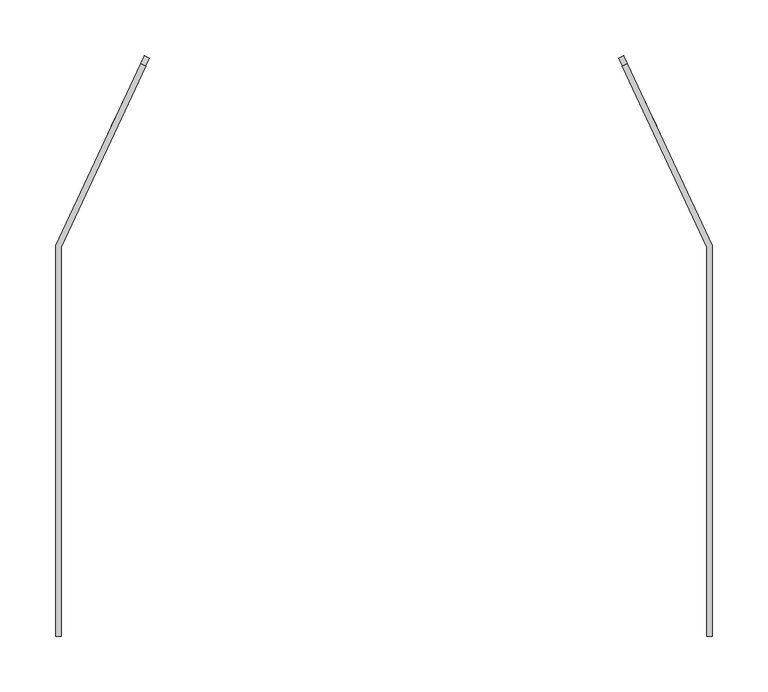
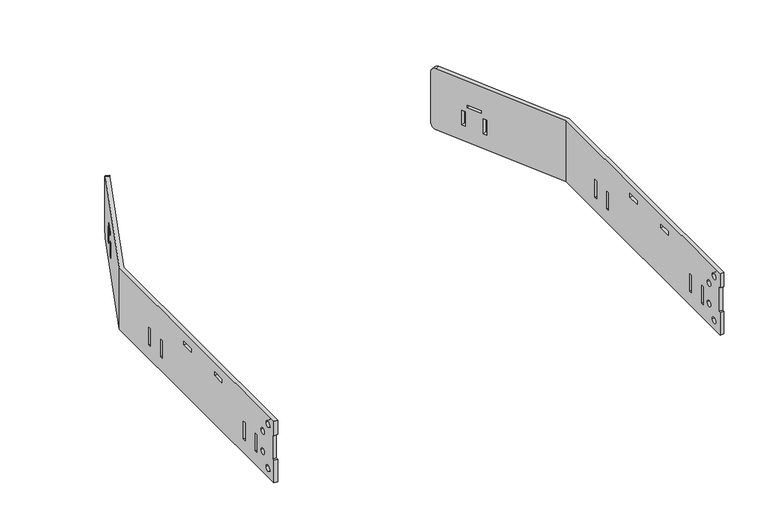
"""IFC4 building model written with IfcOpenShell, lengths in millimetres: proxy geometry, d&b CL-Series CCLi Flying Frame TOP : d&b CL-Series CCLi Flying Frame TOP."""

from ifc_helpers import new_model, si_unit, frame, origin, place, context, project, spatial, polyline, circle_curve, source, transform, mapped, element, save
from ifc_brep_helpers import plane_surface, cylinder_surface, revolved_surface, advanced_brep


def communication_devices_d598217c(model_context):
    return source(origin(), model_context, "Body", "AdvancedBrep", [
        advanced_brep(
        [(-295.0, 350.3584733, 99.0), (-295.0, -0.75, 99.0), (-290.0, -0.75, 99.0), (-290.0, 349.25, 99.0), (-214.1086442, 511.9995377, 99.0), (-218.6401831, 514.112629, 99.0), (-290.0, 349.25, 14.0), (-290.0, -0.75, 14.0), (-295.0, -0.75, 14.0), (-295.0, 350.3584733, 14.0), (-218.6401831, 514.112629, 14.0), (-214.1086442, 511.9995377, 14.0), (-210.7276981, 519.25, 22.0), (-210.7276981, 519.25, 91.0), (-243.4731496, 449.0271528, 55.25), (-241.398349, 453.4765769, 55.25), (-241.398349, 453.4765769, 34.75), (-243.4731496, 449.0271528, 34.75), (-230.8828428, 476.0271528, 55.25), (-228.8080422, 480.4765769, 55.25), (-228.8080422, 480.4765769, 34.75), (-230.8828428, 476.0271528, 34.75), (-240.3356379, 455.7555683, 65.25), (-232.0721958, 473.4765769, 65.25), (-232.0721958, 473.4765769, 61.75), (-240.3356379, 455.7555683, 61.75), (-215.259237, 521.3630913, 22.0), (-215.259237, 521.3630913, 91.0), (-245.9298879, 455.5896683, 55.25), (-248.0046885, 451.1402441, 55.25), (-248.0046885, 451.1402441, 34.75), (-245.9298879, 455.5896683, 34.75), (-233.3395812, 482.5896683, 55.25), (-235.4143817, 478.1402441, 55.25), (-235.4143817, 478.1402441, 34.75), (-233.3395812, 482.5896683, 34.75), (-236.6037348, 475.5896683, 65.25), (-244.8671768, 457.8686596, 65.25), (-244.8671768, 457.8686596, 61.75), (-236.6037348, 475.5896683, 61.75), (-295.0, -0.75, 45.0), (-295.0, 2.25, 45.0), (-295.0, 2.25, 79.25), (-295.0, -0.75, 79.25), (-295.0, 65.0, 57.25), (-295.0, 65.0, 32.75), (-295.0, 68.5, 32.75), (-295.0, 68.5, 57.25), (-295.0, 117.25, 86.0), (-295.0, 117.25, 81.0), (-295.0, 134.25, 81.0), (-295.0, 134.25, 86.0), (-295.0, 187.25, 86.0), (-295.0, 187.25, 81.0), (-295.0, 204.25, 81.0), (-295.0, 204.25, 86.0), (-295.0, 253.0, 57.25), (-295.0, 253.0, 32.75), (-295.0, 256.5, 32.75), (-295.0, 256.5, 57.25), (-295.0, 280.0, 57.25), (-295.0, 280.0, 32.75), (-295.0, 283.5, 32.75), (-295.0, 283.5, 57.25), (-295.0, 38.0, 57.25), (-295.0, 38.0, 32.75), (-295.0, 41.5, 32.75), (-295.0, 41.5, 57.25), (-295.0, 20.7215287, 70.6169591), (-295.0, 28.7215287, 70.6169591), (-295.0, 9.25, 87.0), (-295.0, 17.25, 87.0), (-295.0, 20.7215287, 42.3830409), (-295.0, 28.7215287, 42.3830409), (-295.0, 9.25, 26.0), (-295.0, 17.25, 26.0), (-290.0, -0.75, 79.25), (-290.0, -0.75, 45.0), (-290.0, 2.25, 79.25), (-290.0, 2.25, 45.0), (-290.0, 65.0, 32.75), (-290.0, 65.0, 57.25), (-290.0, 68.5, 57.25), (-290.0, 68.5, 32.75), (-290.0, 117.25, 81.0), (-290.0, 117.25, 86.0), (-290.0, 134.25, 86.0), (-290.0, 134.25, 81.0), (-290.0, 187.25, 81.0), (-290.0, 187.25, 86.0), (-290.0, 204.25, 86.0), (-290.0, 204.25, 81.0), (-290.0, 253.0, 32.75), (-290.0, 253.0, 57.25), (-290.0, 256.5, 57.25), (-290.0, 256.5, 32.75), (-290.0, 280.0, 32.75), (-290.0, 280.0, 57.25), (-290.0, 283.5, 57.25), (-290.0, 283.5, 32.75), (-290.0, 38.0, 32.75), (-290.0, 38.0, 57.25), (-290.0, 41.5, 57.25), (-290.0, 41.5, 32.75), (-290.0, 28.7215287, 70.6169591), (-290.0, 20.7215287, 70.6169591), (-290.0, 17.25, 87.0), (-290.0, 9.25, 87.0), (-290.0, 28.7215287, 42.3830409), (-290.0, 20.7215287, 42.3830409), (-290.0, 17.25, 26.0), (-290.0, 9.25, 26.0)],
        [
            (0, 1),
            (1, 2),
            (2, 3),
            (3, 4),
            (4, 5),
            (5, 0),
            (6, 7),
            (7, 8),
            (8, 9),
            (9, 10),
            (10, 11),
            (11, 6),
            (3, 6),
            (11, 12, circle_curve(frame((-214.1086442, 511.9995377, 22.0), z_axis=(0.9063077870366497, -0.4226182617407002, 0.0), x_axis=(-0.4226182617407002, -0.9063077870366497, 0.0)), 8.0)),
            (12, 13),
            (13, 4, circle_curve(frame((-214.1086442, 511.9995377, 91.0), z_axis=(0.9063077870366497, -0.4226182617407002, 0.0), x_axis=(-0.4226182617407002, -0.9063077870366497, 0.0)), 8.0)),
            (14, 15),
            (15, 16),
            (16, 17),
            (17, 14),
            (18, 19),
            (19, 20),
            (20, 21),
            (21, 18),
            (22, 23),
            (23, 24),
            (24, 25),
            (25, 22),
            (12, 26),
            (26, 27),
            (27, 13),
            (9, 0),
            (5, 27, circle_curve(frame((-218.6401831, 514.112629, 91.0), z_axis=(-0.9063077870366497, 0.4226182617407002, 0.0), x_axis=(-0.4226182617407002, -0.9063077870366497, 0.0)), 8.0)),
            (26, 10, circle_curve(frame((-218.6401831, 514.112629, 22.0), z_axis=(-0.9063077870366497, 0.4226182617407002, 0.0), x_axis=(-0.4226182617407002, -0.9063077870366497, 0.0)), 8.0)),
            (28, 29),
            (29, 30),
            (30, 31),
            (31, 28),
            (32, 33),
            (33, 34),
            (34, 35),
            (35, 32),
            (36, 37),
            (37, 38),
            (38, 39),
            (39, 36),
            (8, 40),
            (40, 41),
            (41, 42),
            (42, 43),
            (43, 1),
            (44, 45),
            (45, 46),
            (46, 47),
            (47, 44),
            (48, 49),
            (49, 50),
            (50, 51),
            (51, 48),
            (52, 53),
            (53, 54),
            (54, 55),
            (55, 52),
            (56, 57),
            (57, 58),
            (58, 59),
            (59, 56),
            (60, 61),
            (61, 62),
            (62, 63),
            (63, 60),
            (64, 65),
            (65, 66),
            (66, 67),
            (67, 64),
            (68, 69, circle_curve(frame((-295.0, 24.7215287, 70.6169591), z_axis=(1.0, 0.0, 0.0), x_axis=(0.0, 1.0, 0.0)), 4.0)),
            (69, 68, circle_curve(frame((-295.0, 24.7215287, 70.6169591), z_axis=(1.0, 0.0, 0.0), x_axis=(0.0, 1.0, 0.0)), 4.0)),
            (70, 71, circle_curve(frame((-295.0, 13.25, 87.0), z_axis=(1.0, 0.0, 0.0), x_axis=(0.0, 1.0, 0.0)), 4.0)),
            (71, 70, circle_curve(frame((-295.0, 13.25, 87.0), z_axis=(1.0, 0.0, 0.0), x_axis=(0.0, 1.0, 0.0)), 4.0)),
            (72, 73, circle_curve(frame((-295.0, 24.7215287, 42.3830409), z_axis=(1.0, 0.0, 0.0), x_axis=(0.0, 1.0, 0.0)), 4.0)),
            (73, 72, circle_curve(frame((-295.0, 24.7215287, 42.3830409), z_axis=(1.0, 0.0, 0.0), x_axis=(0.0, 1.0, 0.0)), 4.0)),
            (74, 75, circle_curve(frame((-295.0, 13.25, 26.0), z_axis=(1.0, 0.0, 0.0), x_axis=(0.0, 1.0, 0.0)), 4.0)),
            (75, 74, circle_curve(frame((-295.0, 13.25, 26.0), z_axis=(1.0, 0.0, 0.0), x_axis=(0.0, 1.0, 0.0)), 4.0)),
            (43, 76),
            (76, 2),
            (7, 77),
            (77, 40),
            (76, 78),
            (78, 79),
            (79, 77),
            (80, 81),
            (81, 82),
            (82, 83),
            (83, 80),
            (84, 85),
            (85, 86),
            (86, 87),
            (87, 84),
            (88, 89),
            (89, 90),
            (90, 91),
            (91, 88),
            (92, 93),
            (93, 94),
            (94, 95),
            (95, 92),
            (96, 97),
            (97, 98),
            (98, 99),
            (99, 96),
            (100, 101),
            (101, 102),
            (102, 103),
            (103, 100),
            (104, 105, circle_curve(frame((-290.0, 24.7215287, 70.6169591), z_axis=(-1.0, 0.0, 0.0), x_axis=(0.0, 1.0, 0.0)), 4.0)),
            (105, 104, circle_curve(frame((-290.0, 24.7215287, 70.6169591), z_axis=(-1.0, 0.0, 0.0), x_axis=(0.0, 1.0, 0.0)), 4.0)),
            (106, 107, circle_curve(frame((-290.0, 13.25, 87.0), z_axis=(-1.0, 0.0, 0.0), x_axis=(0.0, 1.0, 0.0)), 4.0)),
            (107, 106, circle_curve(frame((-290.0, 13.25, 87.0), z_axis=(-1.0, 0.0, 0.0), x_axis=(0.0, 1.0, 0.0)), 4.0)),
            (108, 109, circle_curve(frame((-290.0, 24.7215287, 42.3830409), z_axis=(-1.0, 0.0, 0.0), x_axis=(0.0, 1.0, 0.0)), 4.0)),
            (109, 108, circle_curve(frame((-290.0, 24.7215287, 42.3830409), z_axis=(-1.0, 0.0, 0.0), x_axis=(0.0, 1.0, 0.0)), 4.0)),
            (110, 111, circle_curve(frame((-290.0, 13.25, 26.0), z_axis=(-1.0, 0.0, 0.0), x_axis=(0.0, 1.0, 0.0)), 4.0)),
            (111, 110, circle_curve(frame((-290.0, 13.25, 26.0), z_axis=(-1.0, 0.0, 0.0), x_axis=(0.0, 1.0, 0.0)), 4.0)),
            (79, 41),
            (78, 42),
            (44, 81),
            (80, 45),
            (83, 46),
            (82, 47),
            (48, 85),
            (84, 49),
            (87, 50),
            (86, 51),
            (52, 89),
            (88, 53),
            (91, 54),
            (90, 55),
            (56, 93),
            (92, 57),
            (95, 58),
            (94, 59),
            (60, 97),
            (96, 61),
            (99, 62),
            (98, 63),
            (64, 101),
            (100, 65),
            (103, 66),
            (102, 67),
            (14, 29),
            (28, 15),
            (31, 16),
            (30, 17),
            (18, 33),
            (32, 19),
            (35, 20),
            (34, 21),
            (22, 37),
            (36, 23),
            (39, 24),
            (38, 25),
            (68, 105),
            (104, 69),
            (70, 107),
            (106, 71),
            (72, 109),
            (108, 73),
            (74, 111),
            (110, 75),
        ],
        [
            plane_surface(frame((-210.7276981, 519.25, 99.0), z_axis=(0.0, 0.0, 1.0), x_axis=(0.4226182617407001, 0.9063077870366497, 0.0))),
            plane_surface(frame((-210.7276981, 519.25, 14.0), z_axis=(0.0, 0.0, -1.0), x_axis=(-0.4226182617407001, -0.9063077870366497, 0.0))),
            plane_surface(frame((-290.0, 349.25, 99.0), z_axis=(0.9063077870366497, -0.4226182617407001, 0.0), x_axis=(0.0, 0.0, -1.0))),
            plane_surface(frame((-210.7276981, 519.25, 99.0), z_axis=(0.4226182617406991, 0.9063077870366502, 0.0), x_axis=(0.0, 0.0, -1.0))),
            plane_surface(frame((-215.259237, 521.3630913, 99.0), z_axis=(-0.9063077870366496, 0.42261826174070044, 0.0), x_axis=(0.0, 0.0, -1.0))),
            plane_surface(frame((-295.0, 350.3584733, 99.0), z_axis=(-1.0, 0.0, 0.0), x_axis=(0.0, 0.0, -1.0))),
            plane_surface(frame((-295.0, -0.75, 99.0), z_axis=(0.0, -1.0, 0.0), x_axis=(0.0, 0.0, -1.0))),
            plane_surface(frame((-290.0, -0.75, 99.0), z_axis=(1.0, 0.0, 0.0), x_axis=(0.0, 0.0, -1.0))),
            plane_surface(frame((500.0, -0.75, 45.0), z_axis=(0.0, 0.0, 1.0), x_axis=(-1.0, 0.0, 0.0))),
            plane_surface(frame((500.0, 2.25, 45.0), z_axis=(0.0, -1.0, 0.0), x_axis=(-1.0, 0.0, 0.0))),
            plane_surface(frame((500.0, 2.25, 79.25), z_axis=(0.0, 0.0, -1.0), x_axis=(-1.0, 0.0, 0.0))),
            plane_surface(frame((500.0, 65.0, 57.25), z_axis=(0.0, 1.0, 0.0), x_axis=(-1.0, 0.0, 0.0))),
            plane_surface(frame((500.0, 65.0, 32.75), z_axis=(0.0, 0.0, 1.0), x_axis=(-1.0, 0.0, 0.0))),
            plane_surface(frame((500.0, 68.5, 32.75), z_axis=(0.0, -1.0, 0.0), x_axis=(-1.0, 0.0, 0.0))),
            plane_surface(frame((500.0, 68.5, 57.25), z_axis=(0.0, 0.0, -1.0), x_axis=(-1.0, 0.0, 0.0))),
            plane_surface(frame((500.0, 117.25, 86.0), z_axis=(0.0, 1.0, 0.0), x_axis=(-1.0, 0.0, 0.0))),
            plane_surface(frame((500.0, 117.25, 81.0), z_axis=(0.0, 0.0, 1.0), x_axis=(-1.0, 0.0, 0.0))),
            plane_surface(frame((500.0, 134.25, 81.0), z_axis=(0.0, -1.0, 0.0), x_axis=(-1.0, 0.0, 0.0))),
            plane_surface(frame((500.0, 134.25, 86.0), z_axis=(0.0, 0.0, -1.0), x_axis=(-1.0, 0.0, 0.0))),
            plane_surface(frame((500.0, 187.25, 86.0), z_axis=(0.0, 1.0, 0.0), x_axis=(-1.0, 0.0, 0.0))),
            plane_surface(frame((500.0, 187.25, 81.0), z_axis=(0.0, 0.0, 1.0), x_axis=(-1.0, 0.0, 0.0))),
            plane_surface(frame((500.0, 204.25, 81.0), z_axis=(0.0, -1.0, 0.0), x_axis=(-1.0, 0.0, 0.0))),
            plane_surface(frame((500.0, 204.25, 86.0), z_axis=(0.0, 0.0, -1.0), x_axis=(-1.0, 0.0, 0.0))),
            plane_surface(frame((500.0, 253.0, 57.25), z_axis=(0.0, 1.0, 0.0), x_axis=(-1.0, 0.0, 0.0))),
            plane_surface(frame((500.0, 253.0, 32.75), z_axis=(0.0, 0.0, 1.0), x_axis=(-1.0, 0.0, 0.0))),
            plane_surface(frame((500.0, 256.5, 32.75), z_axis=(0.0, -1.0, 0.0), x_axis=(-1.0, 0.0, 0.0))),
            plane_surface(frame((500.0, 256.5, 57.25), z_axis=(0.0, 0.0, -1.0), x_axis=(-1.0, 0.0, 0.0))),
            plane_surface(frame((500.0, 280.0, 57.25), z_axis=(0.0, 1.0, 0.0), x_axis=(-1.0, 0.0, 0.0))),
            plane_surface(frame((500.0, 280.0, 32.75), z_axis=(0.0, 0.0, 1.0), x_axis=(-1.0, 0.0, 0.0))),
            plane_surface(frame((500.0, 283.5, 32.75), z_axis=(0.0, -1.0, 0.0), x_axis=(-1.0, 0.0, 0.0))),
            plane_surface(frame((500.0, 283.5, 57.25), z_axis=(0.0, 0.0, -1.0), x_axis=(-1.0, 0.0, 0.0))),
            plane_surface(frame((500.0, 38.0, 57.25), z_axis=(0.0, 1.0, 0.0), x_axis=(-1.0, 0.0, 0.0))),
            plane_surface(frame((500.0, 38.0, 32.75), z_axis=(0.0, 0.0, 1.0), x_axis=(-1.0, 0.0, 0.0))),
            plane_surface(frame((500.0, 41.5, 32.75), z_axis=(0.0, -1.0, 0.0), x_axis=(-1.0, 0.0, 0.0))),
            plane_surface(frame((500.0, 41.5, 57.25), z_axis=(0.0, 0.0, -1.0), x_axis=(-1.0, 0.0, 0.0))),
            plane_surface(frame((-257.0677664, 455.3664267, 55.25), z_axis=(0.0, 0.0, -1.0000000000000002), x_axis=(0.9063077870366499, -0.4226182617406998, 0.0))),
            plane_surface(frame((-254.9929658, 459.8158509, 55.25), z_axis=(-0.4226182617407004, -0.9063077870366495, 0.0), x_axis=(0.9063077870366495, -0.4226182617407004, 0.0))),
            plane_surface(frame((-254.9929658, 459.8158509, 34.75), z_axis=(0.0, 0.0, 1.0), x_axis=(0.9063077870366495, -0.4226182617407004, 0.0))),
            plane_surface(frame((-257.0677664, 455.3664267, 34.75), z_axis=(0.4226182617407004, 0.9063077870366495, 0.0), x_axis=(0.9063077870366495, -0.4226182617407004, 0.0))),
            plane_surface(frame((-244.4774596, 482.3664267, 55.25), z_axis=(0.0, 0.0, -1.0), x_axis=(0.9063077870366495, -0.4226182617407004, 0.0))),
            plane_surface(frame((-242.402659, 486.8158509, 55.25), z_axis=(-0.4226182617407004, -0.9063077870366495, 0.0), x_axis=(0.9063077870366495, -0.4226182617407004, 0.0))),
            plane_surface(frame((-242.402659, 486.8158509, 34.75), z_axis=(0.0, 0.0, 1.0), x_axis=(0.9063077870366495, -0.4226182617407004, 0.0))),
            plane_surface(frame((-244.4774596, 482.3664267, 34.75), z_axis=(0.4226182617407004, 0.9063077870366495, 0.0), x_axis=(0.9063077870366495, -0.4226182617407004, 0.0))),
            plane_surface(frame((-253.9302547, 462.0948422, 65.25), z_axis=(0.0, 0.0, -1.0), x_axis=(0.9063077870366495, -0.4226182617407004, 0.0))),
            plane_surface(frame((-245.6668126, 479.8158509, 65.25), z_axis=(-0.4226182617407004, -0.9063077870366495, 0.0), x_axis=(0.9063077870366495, -0.4226182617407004, 0.0))),
            plane_surface(frame((-245.6668126, 479.8158509, 61.75), z_axis=(0.0, 0.0, 1.0), x_axis=(0.9063077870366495, -0.4226182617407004, 0.0))),
            plane_surface(frame((-253.9302547, 462.0948422, 61.75), z_axis=(0.4226182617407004, 0.9063077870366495, 0.0), x_axis=(0.9063077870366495, -0.4226182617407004, 0.0))),
            cylinder_surface(frame((-218.6401831, 514.112629, 91.0), z_axis=(0.9063077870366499, -0.42261826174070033, 0.0), x_axis=(-0.4226182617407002, -0.9063077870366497, 0.0)), 8.0),
            cylinder_surface(frame((-218.6401831, 514.112629, 22.0), z_axis=(0.9063077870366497, -0.4226182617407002, 0.0), x_axis=(-0.4226182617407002, -0.9063077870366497, 0.0)), 8.0),
            revolved_surface(polyline([(-290.0, 28.7215287, 70.6169591), (-295.0, 28.7215287, 70.6169591)]), (0.0, 24.7215287, 70.6169591), (1.0, 0.0, 0.0)),
            revolved_surface(polyline([(-290.0, 17.25, 87.0), (-295.0, 17.25, 87.0)]), (0.0, 13.25, 87.0), (1.0, 0.0, 0.0)),
            revolved_surface(polyline([(-290.0, 28.7215287, 42.3830409), (-295.0, 28.7215287, 42.3830409)]), (0.0, 24.7215287, 42.3830409), (1.0, 0.0, 0.0)),
            revolved_surface(polyline([(-290.0, 17.25, 26.0), (-295.0, 17.25, 26.0)]), (0.0, 13.25, 26.0), (1.0, 0.0, 0.0)),
        ],
        [
            (0, [[1, 2, 3, 4, 5, 6]]),
            (1, [[7, 8, 9, 10, 11, 12]]),
            (2, [[13, -12, 14, 15, 16, -4], [17, 18, 19, 20], [21, 22, 23, 24], [25, 26, 27, 28]]),
            (3, [[-15, 29, 30, 31]]),
            (4, [[32, -6, 33, -30, 34, -10], [35, 36, 37, 38], [39, 40, 41, 42], [43, 44, 45, 46]]),
            (5, [[-1, -32, -9, 47, 48, 49, 50, 51], [52, 53, 54, 55], [56, 57, 58, 59], [60, 61, 62, 63], [64, 65, 66, 67], [68, 69, 70, 71], [72, 73, 74, 75], [76, 77], [78, 79], [80, 81], [82, 83]]),
            (6, [[-2, -51, 84, 85]]),
            (6, [[-8, 86, 87, -47]]),
            (7, [[-3, -85, 88, 89, 90, -86, -7, -13], [91, 92, 93, 94], [95, 96, 97, 98], [99, 100, 101, 102], [103, 104, 105, 106], [107, 108, 109, 110], [111, 112, 113, 114], [115, 116], [117, 118], [119, 120], [121, 122]]),
            (8, [[123, -48, -87, -90]]),
            (9, [[-123, -89, 124, -49]]),
            (10, [[-124, -88, -84, -50]]),
            (11, [[125, -91, 126, -52]]),
            (12, [[-126, -94, 127, -53]]),
            (13, [[-127, -93, 128, -54]]),
            (14, [[-125, -55, -128, -92]]),
            (15, [[129, -95, 130, -56]]),
            (16, [[-130, -98, 131, -57]]),
            (17, [[-131, -97, 132, -58]]),
            (18, [[-129, -59, -132, -96]]),
            (19, [[133, -99, 134, -60]]),
            (20, [[-134, -102, 135, -61]]),
            (21, [[-135, -101, 136, -62]]),
            (22, [[-133, -63, -136, -100]]),
            (23, [[137, -103, 138, -64]]),
            (24, [[-138, -106, 139, -65]]),
            (25, [[-139, -105, 140, -66]]),
            (26, [[-137, -67, -140, -104]]),
            (27, [[141, -107, 142, -68]]),
            (28, [[-142, -110, 143, -69]]),
            (29, [[-143, -109, 144, -70]]),
            (30, [[-141, -71, -144, -108]]),
            (31, [[145, -111, 146, -72]]),
            (32, [[-146, -114, 147, -73]]),
            (33, [[-147, -113, 148, -74]]),
            (34, [[-145, -75, -148, -112]]),
            (35, [[149, -35, 150, -17]]),
            (36, [[-150, -38, 151, -18]]),
            (37, [[-151, -37, 152, -19]]),
            (38, [[-149, -20, -152, -36]]),
            (39, [[153, -39, 154, -21]]),
            (40, [[-154, -42, 155, -22]]),
            (41, [[-155, -41, 156, -23]]),
            (42, [[-153, -24, -156, -40]]),
            (43, [[157, -43, 158, -25]]),
            (44, [[-158, -46, 159, -26]]),
            (45, [[-159, -45, 160, -27]]),
            (46, [[-157, -28, -160, -44]]),
            (47, [[-5, -16, -31, -33]]),
            (48, [[-11, -34, -29, -14]]),
            (49, [[161, -115, 162, -76]]),
            (49, [[-161, -77, -162, -116]]),
            (50, [[163, -117, 164, -78]]),
            (50, [[-163, -79, -164, -118]]),
            (51, [[165, -119, 166, -80]]),
            (51, [[-165, -81, -166, -120]]),
            (52, [[167, -121, 168, -82]]),
            (52, [[-167, -83, -168, -122]]),
        ],
    ),
        advanced_brep(
        [(290.0, 349.25, 99.0), (290.0, -0.75, 99.0), (295.0, -0.75, 99.0), (295.0, 350.3584733, 99.0), (218.6401831, 514.112629, 99.0), (214.1086442, 511.9995377, 99.0), (295.0, 350.3584733, 14.0), (295.0, -0.75, 14.0), (290.0, -0.75, 14.0), (290.0, 349.25, 14.0), (214.1086442, 511.9995377, 14.0), (218.6401831, 514.112629, 14.0), (290.0, -0.75, 45.0), (290.0, 2.25, 45.0), (290.0, 2.25, 79.25), (290.0, -0.75, 79.25), (290.0, 65.0, 57.25), (290.0, 65.0, 32.75), (290.0, 68.5, 32.75), (290.0, 68.5, 57.25), (290.0, 117.25, 86.0), (290.0, 117.25, 81.0), (290.0, 134.25, 81.0), (290.0, 134.25, 86.0), (290.0, 187.25, 86.0), (290.0, 187.25, 81.0), (290.0, 204.25, 81.0), (290.0, 204.25, 86.0), (290.0, 253.0, 57.25), (290.0, 253.0, 32.75), (290.0, 256.5, 32.75), (290.0, 256.5, 57.25), (290.0, 280.0, 57.25), (290.0, 280.0, 32.75), (290.0, 283.5, 32.75), (290.0, 283.5, 57.25), (290.0, 38.0, 57.25), (290.0, 38.0, 32.75), (290.0, 41.5, 32.75), (290.0, 41.5, 57.25), (290.0, 20.7215287, 70.6169591), (290.0, 28.7215287, 70.6169591), (290.0, 9.25, 87.0), (290.0, 17.25, 87.0), (290.0, 20.7215287, 42.3830409), (290.0, 28.7215287, 42.3830409), (290.0, 9.25, 26.0), (290.0, 17.25, 26.0), (295.0, -0.75, 79.25), (295.0, -0.75, 45.0), (295.0, 2.25, 79.25), (295.0, 2.25, 45.0), (295.0, 65.0, 32.75), (295.0, 65.0, 57.25), (295.0, 68.5, 57.25), (295.0, 68.5, 32.75), (295.0, 117.25, 81.0), (295.0, 117.25, 86.0), (295.0, 134.25, 86.0), (295.0, 134.25, 81.0), (295.0, 187.25, 81.0), (295.0, 187.25, 86.0), (295.0, 204.25, 86.0), (295.0, 204.25, 81.0), (295.0, 253.0, 32.75), (295.0, 253.0, 57.25), (295.0, 256.5, 57.25), (295.0, 256.5, 32.75), (295.0, 280.0, 32.75), (295.0, 280.0, 57.25), (295.0, 283.5, 57.25), (295.0, 283.5, 32.75), (295.0, 38.0, 32.75), (295.0, 38.0, 57.25), (295.0, 41.5, 57.25), (295.0, 41.5, 32.75), (295.0, 28.7215287, 70.6169591), (295.0, 20.7215287, 70.6169591), (295.0, 17.25, 87.0), (295.0, 9.25, 87.0), (295.0, 28.7215287, 42.3830409), (295.0, 20.7215287, 42.3830409), (295.0, 17.25, 26.0), (295.0, 9.25, 26.0), (215.259237, 521.3630913, 22.0), (215.259237, 521.3630913, 91.0), (248.0046885, 451.1402441, 55.25), (245.9298879, 455.5896683, 55.25), (245.9298879, 455.5896683, 34.75), (248.0046885, 451.1402441, 34.75), (235.4143817, 478.1402441, 55.25), (233.3395812, 482.5896683, 55.25), (233.3395812, 482.5896683, 34.75), (235.4143817, 478.1402441, 34.75), (244.8671768, 457.8686596, 65.25), (236.6037348, 475.5896683, 65.25), (236.6037348, 475.5896683, 61.75), (244.8671768, 457.8686596, 61.75), (210.7276981, 519.25, 22.0), (210.7276981, 519.25, 91.0), (241.398349, 453.4765769, 55.25), (243.4731496, 449.0271528, 55.25), (243.4731496, 449.0271528, 34.75), (241.398349, 453.4765769, 34.75), (228.8080422, 480.4765769, 55.25), (230.8828428, 476.0271528, 55.25), (230.8828428, 476.0271528, 34.75), (228.8080422, 480.4765769, 34.75), (232.0721958, 473.4765769, 65.25), (240.3356379, 455.7555683, 65.25), (240.3356379, 455.7555683, 61.75), (232.0721958, 473.4765769, 61.75)],
        [
            (0, 1),
            (1, 2),
            (2, 3),
            (3, 4),
            (4, 5),
            (5, 0),
            (6, 7),
            (7, 8),
            (8, 9),
            (9, 10),
            (10, 11),
            (11, 6),
            (0, 9),
            (8, 12),
            (12, 13),
            (13, 14),
            (14, 15),
            (15, 1),
            (16, 17),
            (17, 18),
            (18, 19),
            (19, 16),
            (20, 21),
            (21, 22),
            (22, 23),
            (23, 20),
            (24, 25),
            (25, 26),
            (26, 27),
            (27, 24),
            (28, 29),
            (29, 30),
            (30, 31),
            (31, 28),
            (32, 33),
            (33, 34),
            (34, 35),
            (35, 32),
            (36, 37),
            (37, 38),
            (38, 39),
            (39, 36),
            (40, 41, circle_curve(frame((290.0, 24.7215287, 70.6169591), z_axis=(1.0, 0.0, 0.0), x_axis=(0.0, 1.0, 0.0)), 4.0)),
            (41, 40, circle_curve(frame((290.0, 24.7215287, 70.6169591), z_axis=(1.0, 0.0, 0.0), x_axis=(0.0, 1.0, 0.0)), 4.0)),
            (42, 43, circle_curve(frame((290.0, 13.25, 87.0), z_axis=(1.0, 0.0, 0.0), x_axis=(0.0, 1.0, 0.0)), 4.0)),
            (43, 42, circle_curve(frame((290.0, 13.25, 87.0), z_axis=(1.0, 0.0, 0.0), x_axis=(0.0, 1.0, 0.0)), 4.0)),
            (44, 45, circle_curve(frame((290.0, 24.7215287, 42.3830409), z_axis=(1.0, 0.0, 0.0), x_axis=(0.0, 1.0, 0.0)), 4.0)),
            (45, 44, circle_curve(frame((290.0, 24.7215287, 42.3830409), z_axis=(1.0, 0.0, 0.0), x_axis=(0.0, 1.0, 0.0)), 4.0)),
            (46, 47, circle_curve(frame((290.0, 13.25, 26.0), z_axis=(1.0, 0.0, 0.0), x_axis=(0.0, 1.0, 0.0)), 4.0)),
            (47, 46, circle_curve(frame((290.0, 13.25, 26.0), z_axis=(1.0, 0.0, 0.0), x_axis=(0.0, 1.0, 0.0)), 4.0)),
            (15, 48),
            (48, 2),
            (7, 49),
            (49, 12),
            (48, 50),
            (50, 51),
            (51, 49),
            (6, 3),
            (52, 53),
            (53, 54),
            (54, 55),
            (55, 52),
            (56, 57),
            (57, 58),
            (58, 59),
            (59, 56),
            (60, 61),
            (61, 62),
            (62, 63),
            (63, 60),
            (64, 65),
            (65, 66),
            (66, 67),
            (67, 64),
            (68, 69),
            (69, 70),
            (70, 71),
            (71, 68),
            (72, 73),
            (73, 74),
            (74, 75),
            (75, 72),
            (76, 77, circle_curve(frame((295.0, 24.7215287, 70.6169591), z_axis=(-1.0, 0.0, 0.0), x_axis=(0.0, 1.0, 0.0)), 4.0)),
            (77, 76, circle_curve(frame((295.0, 24.7215287, 70.6169591), z_axis=(-1.0, 0.0, 0.0), x_axis=(0.0, 1.0, 0.0)), 4.0)),
            (78, 79, circle_curve(frame((295.0, 13.25, 87.0), z_axis=(-1.0, 0.0, 0.0), x_axis=(0.0, 1.0, 0.0)), 4.0)),
            (79, 78, circle_curve(frame((295.0, 13.25, 87.0), z_axis=(-1.0, 0.0, 0.0), x_axis=(0.0, 1.0, 0.0)), 4.0)),
            (80, 81, circle_curve(frame((295.0, 24.7215287, 42.3830409), z_axis=(-1.0, 0.0, 0.0), x_axis=(0.0, 1.0, 0.0)), 4.0)),
            (81, 80, circle_curve(frame((295.0, 24.7215287, 42.3830409), z_axis=(-1.0, 0.0, 0.0), x_axis=(0.0, 1.0, 0.0)), 4.0)),
            (82, 83, circle_curve(frame((295.0, 13.25, 26.0), z_axis=(-1.0, 0.0, 0.0), x_axis=(0.0, 1.0, 0.0)), 4.0)),
            (83, 82, circle_curve(frame((295.0, 13.25, 26.0), z_axis=(-1.0, 0.0, 0.0), x_axis=(0.0, 1.0, 0.0)), 4.0)),
            (11, 84, circle_curve(frame((218.6401831, 514.112629, 22.0), z_axis=(0.9063077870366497, 0.4226182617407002, 0.0), x_axis=(0.4226182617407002, -0.9063077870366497, 0.0)), 8.0)),
            (84, 85),
            (85, 4, circle_curve(frame((218.6401831, 514.112629, 91.0), z_axis=(0.9063077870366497, 0.4226182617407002, 0.0), x_axis=(0.4226182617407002, -0.9063077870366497, 0.0)), 8.0)),
            (86, 87),
            (87, 88),
            (88, 89),
            (89, 86),
            (90, 91),
            (91, 92),
            (92, 93),
            (93, 90),
            (94, 95),
            (95, 96),
            (96, 97),
            (97, 94),
            (84, 98),
            (98, 99),
            (99, 85),
            (5, 99, circle_curve(frame((214.1086442, 511.9995377, 91.0), z_axis=(-0.9063077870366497, -0.4226182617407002, 0.0), x_axis=(0.4226182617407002, -0.9063077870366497, 0.0)), 8.0)),
            (98, 10, circle_curve(frame((214.1086442, 511.9995377, 22.0), z_axis=(-0.9063077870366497, -0.4226182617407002, 0.0), x_axis=(0.4226182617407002, -0.9063077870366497, 0.0)), 8.0)),
            (100, 101),
            (101, 102),
            (102, 103),
            (103, 100),
            (104, 105),
            (105, 106),
            (106, 107),
            (107, 104),
            (108, 109),
            (109, 110),
            (110, 111),
            (111, 108),
            (51, 13),
            (50, 14),
            (16, 53),
            (52, 17),
            (55, 18),
            (54, 19),
            (20, 57),
            (56, 21),
            (59, 22),
            (58, 23),
            (24, 61),
            (60, 25),
            (63, 26),
            (62, 27),
            (28, 65),
            (64, 29),
            (67, 30),
            (66, 31),
            (32, 69),
            (68, 33),
            (71, 34),
            (70, 35),
            (36, 73),
            (72, 37),
            (75, 38),
            (74, 39),
            (100, 87),
            (86, 101),
            (103, 88),
            (102, 89),
            (104, 91),
            (90, 105),
            (107, 92),
            (106, 93),
            (108, 95),
            (94, 109),
            (111, 96),
            (110, 97),
            (40, 77),
            (76, 41),
            (42, 79),
            (78, 43),
            (44, 81),
            (80, 45),
            (46, 83),
            (82, 47),
        ],
        [
            plane_surface(frame((-210.7276981, 519.25, 99.0), z_axis=(0.0, 0.0, 1.0), x_axis=(0.4226182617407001, 0.9063077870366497, 0.0))),
            plane_surface(frame((-210.7276981, 519.25, 14.0), z_axis=(0.0, 0.0, -1.0), x_axis=(-0.4226182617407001, -0.9063077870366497, 0.0))),
            plane_surface(frame((290.0, 349.25, 99.0), z_axis=(-1.0, 0.0, 0.0), x_axis=(0.0, 0.0, -1.0))),
            plane_surface(frame((290.0, -0.75, 99.0), z_axis=(0.0, -1.0, 0.0), x_axis=(0.0, 0.0, -1.0))),
            plane_surface(frame((295.0, -0.75, 99.0), z_axis=(1.0, 0.0, 0.0), x_axis=(0.0, 0.0, -1.0))),
            plane_surface(frame((295.0, 350.3584733, 99.0), z_axis=(0.9063077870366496, 0.42261826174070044, 0.0), x_axis=(0.0, 0.0, -1.0))),
            plane_surface(frame((215.259237, 521.3630913, 99.0), z_axis=(-0.4226182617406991, 0.9063077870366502, 0.0), x_axis=(0.0, 0.0, -1.0))),
            plane_surface(frame((210.7276981, 519.25, 99.0), z_axis=(-0.9063077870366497, -0.4226182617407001, 0.0), x_axis=(0.0, 0.0, -1.0))),
            plane_surface(frame((500.0, -0.75, 45.0), z_axis=(0.0, 0.0, 1.0), x_axis=(-1.0, 0.0, 0.0))),
            plane_surface(frame((500.0, 2.25, 45.0), z_axis=(0.0, -1.0, 0.0), x_axis=(-1.0, 0.0, 0.0))),
            plane_surface(frame((500.0, 2.25, 79.25), z_axis=(0.0, 0.0, -1.0), x_axis=(-1.0, 0.0, 0.0))),
            plane_surface(frame((500.0, 65.0, 57.25), z_axis=(0.0, 1.0, 0.0), x_axis=(-1.0, 0.0, 0.0))),
            plane_surface(frame((500.0, 65.0, 32.75), z_axis=(0.0, 0.0, 1.0), x_axis=(-1.0, 0.0, 0.0))),
            plane_surface(frame((500.0, 68.5, 32.75), z_axis=(0.0, -1.0, 0.0), x_axis=(-1.0, 0.0, 0.0))),
            plane_surface(frame((500.0, 68.5, 57.25), z_axis=(0.0, 0.0, -1.0), x_axis=(-1.0, 0.0, 0.0))),
            plane_surface(frame((500.0, 117.25, 86.0), z_axis=(0.0, 1.0, 0.0), x_axis=(-1.0, 0.0, 0.0))),
            plane_surface(frame((500.0, 117.25, 81.0), z_axis=(0.0, 0.0, 1.0), x_axis=(-1.0, 0.0, 0.0))),
            plane_surface(frame((500.0, 134.25, 81.0), z_axis=(0.0, -1.0, 0.0), x_axis=(-1.0, 0.0, 0.0))),
            plane_surface(frame((500.0, 134.25, 86.0), z_axis=(0.0, 0.0, -1.0), x_axis=(-1.0, 0.0, 0.0))),
            plane_surface(frame((500.0, 187.25, 86.0), z_axis=(0.0, 1.0, 0.0), x_axis=(-1.0, 0.0, 0.0))),
            plane_surface(frame((500.0, 187.25, 81.0), z_axis=(0.0, 0.0, 1.0), x_axis=(-1.0, 0.0, 0.0))),
            plane_surface(frame((500.0, 204.25, 81.0), z_axis=(0.0, -1.0, 0.0), x_axis=(-1.0, 0.0, 0.0))),
            plane_surface(frame((500.0, 204.25, 86.0), z_axis=(0.0, 0.0, -1.0), x_axis=(-1.0, 0.0, 0.0))),
            plane_surface(frame((500.0, 253.0, 57.25), z_axis=(0.0, 1.0, 0.0), x_axis=(-1.0, 0.0, 0.0))),
            plane_surface(frame((500.0, 253.0, 32.75), z_axis=(0.0, 0.0, 1.0), x_axis=(-1.0, 0.0, 0.0))),
            plane_surface(frame((500.0, 256.5, 32.75), z_axis=(0.0, -1.0, 0.0), x_axis=(-1.0, 0.0, 0.0))),
            plane_surface(frame((500.0, 256.5, 57.25), z_axis=(0.0, 0.0, -1.0), x_axis=(-1.0, 0.0, 0.0))),
            plane_surface(frame((500.0, 280.0, 57.25), z_axis=(0.0, 1.0, 0.0), x_axis=(-1.0, 0.0, 0.0))),
            plane_surface(frame((500.0, 280.0, 32.75), z_axis=(0.0, 0.0, 1.0), x_axis=(-1.0, 0.0, 0.0))),
            plane_surface(frame((500.0, 283.5, 32.75), z_axis=(0.0, -1.0, 0.0), x_axis=(-1.0, 0.0, 0.0))),
            plane_surface(frame((500.0, 283.5, 57.25), z_axis=(0.0, 0.0, -1.0), x_axis=(-1.0, 0.0, 0.0))),
            plane_surface(frame((500.0, 38.0, 57.25), z_axis=(0.0, 1.0, 0.0), x_axis=(-1.0, 0.0, 0.0))),
            plane_surface(frame((500.0, 38.0, 32.75), z_axis=(0.0, 0.0, 1.0), x_axis=(-1.0, 0.0, 0.0))),
            plane_surface(frame((500.0, 41.5, 32.75), z_axis=(0.0, -1.0, 0.0), x_axis=(-1.0, 0.0, 0.0))),
            plane_surface(frame((500.0, 41.5, 57.25), z_axis=(0.0, 0.0, -1.0), x_axis=(-1.0, 0.0, 0.0))),
            plane_surface(frame((254.9929658, 459.8158509, 55.25), z_axis=(0.0, 0.0, -1.0), x_axis=(-0.9063077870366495, -0.4226182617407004, 0.0))),
            plane_surface(frame((254.9929658, 459.8158509, 34.75), z_axis=(0.4226182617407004, -0.9063077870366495, 0.0), x_axis=(-0.9063077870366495, -0.4226182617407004, 0.0))),
            plane_surface(frame((257.0677664, 455.3664267, 34.75), z_axis=(0.0, 0.0, 1.0), x_axis=(-0.9063077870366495, -0.4226182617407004, 0.0))),
            plane_surface(frame((257.0677664, 455.3664267, 55.25), z_axis=(-0.4226182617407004, 0.9063077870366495, 0.0), x_axis=(-0.9063077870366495, -0.4226182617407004, 0.0))),
            plane_surface(frame((242.402659, 486.8158509, 55.25), z_axis=(0.0, 0.0, -1.0), x_axis=(-0.9063077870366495, -0.4226182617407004, 0.0))),
            plane_surface(frame((242.402659, 486.8158509, 34.75), z_axis=(0.4226182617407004, -0.9063077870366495, 0.0), x_axis=(-0.9063077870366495, -0.4226182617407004, 0.0))),
            plane_surface(frame((244.4774596, 482.3664267, 34.75), z_axis=(0.0, 0.0, 1.0), x_axis=(-0.9063077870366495, -0.4226182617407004, 0.0))),
            plane_surface(frame((244.4774596, 482.3664267, 55.25), z_axis=(-0.4226182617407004, 0.9063077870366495, 0.0), x_axis=(-0.9063077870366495, -0.4226182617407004, 0.0))),
            plane_surface(frame((245.6668126, 479.8158509, 65.25), z_axis=(0.0, 0.0, -1.0), x_axis=(-0.9063077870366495, -0.4226182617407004, 0.0))),
            plane_surface(frame((245.6668126, 479.8158509, 61.75), z_axis=(0.4226182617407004, -0.9063077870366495, 0.0), x_axis=(-0.9063077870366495, -0.4226182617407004, 0.0))),
            plane_surface(frame((253.9302547, 462.0948422, 61.75), z_axis=(0.0, 0.0, 1.0), x_axis=(-0.9063077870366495, -0.4226182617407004, 0.0))),
            plane_surface(frame((253.9302547, 462.0948422, 65.25), z_axis=(-0.4226182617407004, 0.9063077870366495, 0.0), x_axis=(-0.9063077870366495, -0.4226182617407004, 0.0))),
            cylinder_surface(frame((218.6401831, 514.112629, 91.0), z_axis=(-0.9063077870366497, -0.4226182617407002, 0.0), x_axis=(0.4226182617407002, -0.9063077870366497, 0.0)), 8.0),
            cylinder_surface(frame((218.6401831, 514.112629, 22.0), z_axis=(-0.9063077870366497, -0.4226182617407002, 0.0), x_axis=(0.4226182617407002, -0.9063077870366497, 0.0)), 8.0),
            revolved_surface(polyline([(295.0, 28.7215287, 70.6169591), (290.0, 28.7215287, 70.6169591)]), (0.0, 24.7215287, 70.6169591), (1.0, 0.0, 0.0)),
            revolved_surface(polyline([(295.0, 17.25, 87.0), (290.0, 17.25, 87.0)]), (0.0, 13.25, 87.0), (1.0, 0.0, 0.0)),
            revolved_surface(polyline([(295.0, 28.7215287, 42.3830409), (290.0, 28.7215287, 42.3830409)]), (0.0, 24.7215287, 42.3830409), (1.0, 0.0, 0.0)),
            revolved_surface(polyline([(295.0, 17.25, 26.0), (290.0, 17.25, 26.0)]), (0.0, 13.25, 26.0), (1.0, 0.0, 0.0)),
        ],
        [
            (0, [[1, 2, 3, 4, 5, 6]]),
            (1, [[7, 8, 9, 10, 11, 12]]),
            (2, [[-1, 13, -9, 14, 15, 16, 17, 18], [19, 20, 21, 22], [23, 24, 25, 26], [27, 28, 29, 30], [31, 32, 33, 34], [35, 36, 37, 38], [39, 40, 41, 42], [43, 44], [45, 46], [47, 48], [49, 50]]),
            (3, [[-2, -18, 51, 52]]),
            (3, [[-8, 53, 54, -14]]),
            (4, [[-3, -52, 55, 56, 57, -53, -7, 58], [59, 60, 61, 62], [63, 64, 65, 66], [67, 68, 69, 70], [71, 72, 73, 74], [75, 76, 77, 78], [79, 80, 81, 82], [83, 84], [85, 86], [87, 88], [89, 90]]),
            (5, [[-58, -12, 91, 92, 93, -4], [94, 95, 96, 97], [98, 99, 100, 101], [102, 103, 104, 105]]),
            (6, [[-92, 106, 107, 108]]),
            (7, [[-13, -6, 109, -107, 110, -10], [111, 112, 113, 114], [115, 116, 117, 118], [119, 120, 121, 122]]),
            (8, [[123, -15, -54, -57]]),
            (9, [[-123, -56, 124, -16]]),
            (10, [[-124, -55, -51, -17]]),
            (11, [[125, -59, 126, -19]]),
            (12, [[-126, -62, 127, -20]]),
            (13, [[-127, -61, 128, -21]]),
            (14, [[-125, -22, -128, -60]]),
            (15, [[129, -63, 130, -23]]),
            (16, [[-130, -66, 131, -24]]),
            (17, [[-131, -65, 132, -25]]),
            (18, [[-129, -26, -132, -64]]),
            (19, [[133, -67, 134, -27]]),
            (20, [[-134, -70, 135, -28]]),
            (21, [[-135, -69, 136, -29]]),
            (22, [[-133, -30, -136, -68]]),
            (23, [[137, -71, 138, -31]]),
            (24, [[-138, -74, 139, -32]]),
            (25, [[-139, -73, 140, -33]]),
            (26, [[-137, -34, -140, -72]]),
            (27, [[141, -75, 142, -35]]),
            (28, [[-142, -78, 143, -36]]),
            (29, [[-143, -77, 144, -37]]),
            (30, [[-141, -38, -144, -76]]),
            (31, [[145, -79, 146, -39]]),
            (32, [[-146, -82, 147, -40]]),
            (33, [[-147, -81, 148, -41]]),
            (34, [[-145, -42, -148, -80]]),
            (35, [[149, -94, 150, -111]]),
            (36, [[-149, -114, 151, -95]]),
            (37, [[-151, -113, 152, -96]]),
            (38, [[-152, -112, -150, -97]]),
            (39, [[153, -98, 154, -115]]),
            (40, [[-153, -118, 155, -99]]),
            (41, [[-155, -117, 156, -100]]),
            (42, [[-156, -116, -154, -101]]),
            (43, [[157, -102, 158, -119]]),
            (44, [[-157, -122, 159, -103]]),
            (45, [[-159, -121, 160, -104]]),
            (46, [[-160, -120, -158, -105]]),
            (47, [[-5, -93, -108, -109]]),
            (48, [[-11, -110, -106, -91]]),
            (49, [[161, -83, 162, -43]]),
            (49, [[-161, -44, -162, -84]]),
            (50, [[163, -85, 164, -45]]),
            (50, [[-163, -46, -164, -86]]),
            (51, [[165, -87, 166, -47]]),
            (51, [[-165, -48, -166, -88]]),
            (52, [[167, -89, 168, -49]]),
            (52, [[-167, -50, -168, -90]]),
        ],
    ),
    ])


if __name__ == "__main__":
    model = new_model("IFC4")
    model_context = context("Model", 3, world=origin())
    ifc_project = project(units=[si_unit("LENGTHUNIT", "METRE", prefix="MILLI")], contexts=[model_context])
    site = spatial("IfcSite", under=ifc_project)
    building = spatial("IfcBuilding", under=site)
    placement = place(None, origin())
    communication_devices_shape = communication_devices_d598217c(model_context)
    element("IfcBuildingElementProxy", 1, Name="d&b CL-Series CCLi Flying Frame TOP : d&b CL-Series CCLi Flying Frame TOP", ObjectType="d&b CL-Series CCLi Flying Frame TOP : d&b CL-Series CCLi Flying Frame TOP", at=placement, inside=building, context=model_context, shape_type="MappedRepresentation", body=[
        mapped(communication_devices_shape, transform((0.0, 0.0, 0.0), x_axis=(1.0, 0.0, 0.0), y_axis=(0.0, 1.0, 0.0), z_axis=(0.0, 0.0, 1.0))),
    ])
    save(model, "model.ifc")
